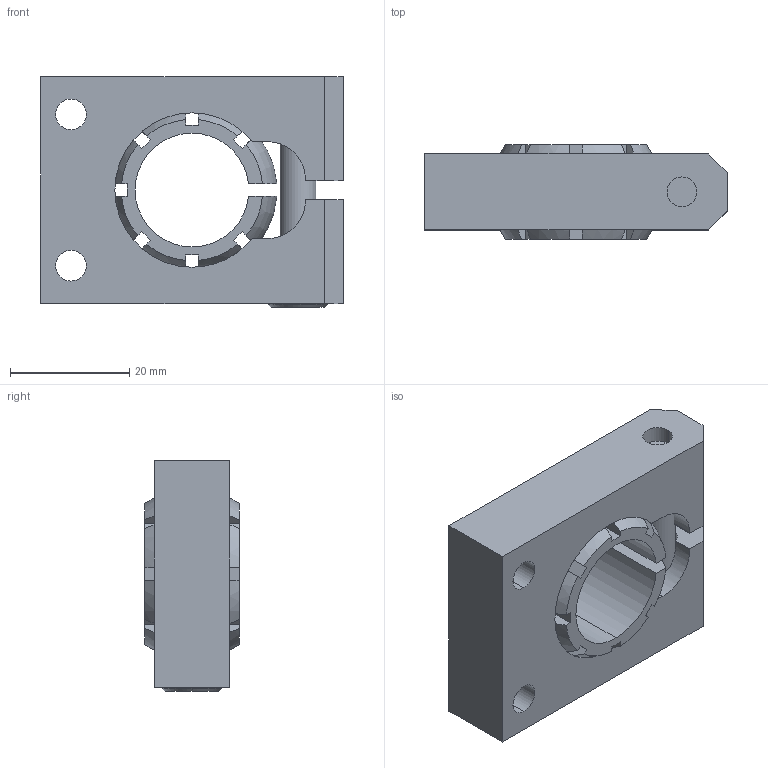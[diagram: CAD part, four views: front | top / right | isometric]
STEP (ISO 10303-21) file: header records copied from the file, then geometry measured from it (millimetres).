
FILE_DESCRIPTION (( 'STEP AP214' ), '1' );
FILE_NAME ('RTI-SMB-75.STEP', '2013-10-22T14:48:33', ( 'user' ), ( '' ), 'SwSTEP 2.0', 'SolidWorks 2009', '' );
FILE_SCHEMA (( 'AUTOMOTIVE_DESIGN' ));
Length unit declared in the file: inch
Products named in the file (5): RTI-SMB-75; 1.125 OD_.758 ID_Swivel_Ball; M6 WASHER; M6 S.H.C.S._M6x30mm
Assembly tree (4 placements, depth 2):
  RTI-SMB-75
    1.125 OD_.758 ID_Swivel_Ball
    M6 WASHER
    M6 S.H.C.S._M6x30mm
    RTI-SMB-75
Bounding box: 50.8 x 15.88 x 38.75 mm (x, y, z)
Volume: 18277.2 mm3; surface area: 11319.7 mm2
Topology: 4 solids, 4 shells, 362 faces, 952 edges, 633 vertices
Faces by surface type: plane 219, bspline 96, cylinder 33, torus 8, cone 4, sphere 2
Entity records: 21069 total; most frequent: CARTESIAN_POINT 9354, ORIENTED_EDGE 1894, DIRECTION 1372, EDGE_CURVE 947, LINE 644, VECTOR 644, VERTEX_POINT 630, EDGE_LOOP 409
